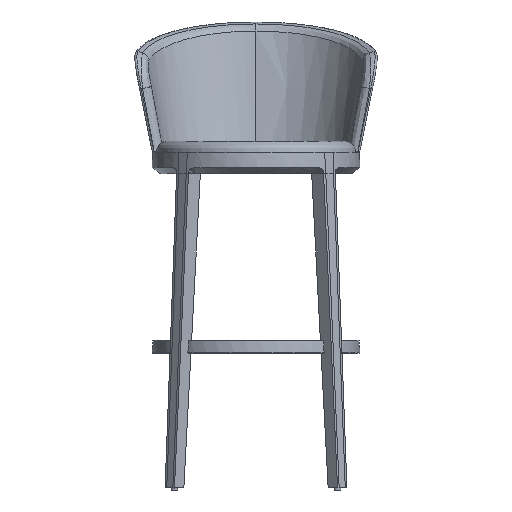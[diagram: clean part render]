
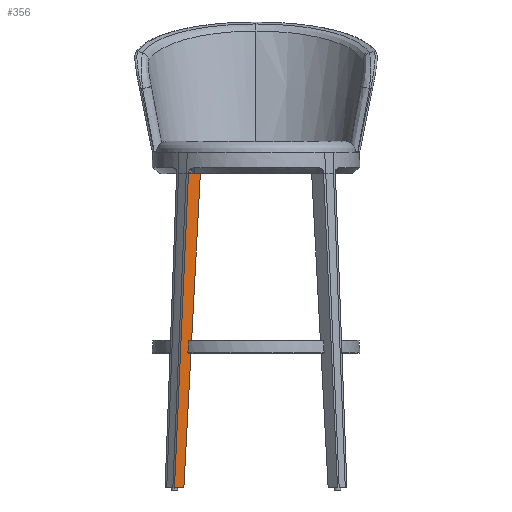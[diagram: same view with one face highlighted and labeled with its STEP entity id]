
A CAD part, front view. The second image highlights one B-rep face of the part: STEP entity #356.
In plain terms, the highlighted free-form (B-spline) face has degree [3, 3] with [4, 4] control points.
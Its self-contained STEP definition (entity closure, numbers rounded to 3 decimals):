
#356=ADVANCED_FACE('',(#583),#3591,.T.);
#583=FACE_OUTER_BOUND('',#810,.T.);
#810=EDGE_LOOP('',(#1613,#1614,#1615,#1616,#1617,#1618,#1619,#1620,#1621,
#1622));
#1613=ORIENTED_EDGE('',*,*,#2384,.F.);
#1614=ORIENTED_EDGE('',*,*,#2376,.T.);
#1615=ORIENTED_EDGE('',*,*,#2358,.F.);
#1616=ORIENTED_EDGE('',*,*,#2357,.F.);
#1617=ORIENTED_EDGE('',*,*,#2360,.F.);
#1618=ORIENTED_EDGE('',*,*,#2359,.F.);
#1619=ORIENTED_EDGE('',*,*,#2372,.F.);
#1620=ORIENTED_EDGE('',*,*,#2368,.T.);
#1621=ORIENTED_EDGE('',*,*,#2382,.F.);
#1622=ORIENTED_EDGE('',*,*,#2375,.T.);
#2357=EDGE_CURVE('',#3332,#3341,#2991,.T.);
#2358=EDGE_CURVE('',#3341,#3356,#2992,.T.);
#2359=EDGE_CURVE('',#3342,#3331,#2993,.T.);
#2360=EDGE_CURVE('',#3331,#3332,#2994,.T.);
#2368=EDGE_CURVE('',#3355,#3363,#3002,.T.);
#2372=EDGE_CURVE('',#3355,#3342,#3006,.T.);
#2375=EDGE_CURVE('',#3362,#3361,#3009,.T.);
#2376=EDGE_CURVE('',#3364,#3356,#3010,.T.);
#2382=EDGE_CURVE('',#3362,#3363,#3012,.T.);
#2384=EDGE_CURVE('',#3364,#3361,#3014,.T.);
#2991=B_SPLINE_CURVE_WITH_KNOTS('',3,(#12524,#12525,#12526,#12527),
 .UNSPECIFIED.,.F.,.F.,(4,4),(0.,39.1),.UNSPECIFIED.);
#2992=B_SPLINE_CURVE_WITH_KNOTS('',3,(#12528,#12529,#12530,#12531),
 .UNSPECIFIED.,.F.,.F.,(4,4),(0.,378.034),.UNSPECIFIED.);
#2993=B_SPLINE_CURVE_WITH_KNOTS('',3,(#12532,#12533,#12534,#12535),
 .UNSPECIFIED.,.F.,.F.,(4,4),(-39.1,0.),.UNSPECIFIED.);
#2994=B_SPLINE_CURVE_WITH_KNOTS('',3,(#12536,#12537,#12538,#12539),
 .UNSPECIFIED.,.F.,.F.,(4,4),(-713.009,0.),.UNSPECIFIED.);
#3002=B_SPLINE_CURVE_WITH_KNOTS('',3,(#12623,#12624,#12625,#12626),
 .UNSPECIFIED.,.F.,.F.,(4,4),(0.,8.927),.UNSPECIFIED.);
#3006=B_SPLINE_CURVE_WITH_KNOTS('',3,(#12639,#12640,#12641,#12642),
 .UNSPECIFIED.,.F.,.F.,(4,4),(407.163,713.009),
 .UNSPECIFIED.);
#3009=B_SPLINE_CURVE_WITH_KNOTS('',3,(#12660,#12661,#12662,#12663),
 .UNSPECIFIED.,.F.,.F.,(4,4),(1.07,29.136),
 .UNSPECIFIED.);
#3010=B_SPLINE_CURVE_WITH_KNOTS('',3,(#12664,#12665,#12666,#12667),
 .UNSPECIFIED.,.F.,.F.,(4,4),(0.937,10.),
 .UNSPECIFIED.);
#3012=B_SPLINE_CURVE_WITH_KNOTS('',3,(#12700,#12701,#12702,#12703,#12704,
#12705,#12706,#12707,#12708,#12709,#12710,#12711,#12712,#12713,#12714,#12715,
#12716,#12717,#12718,#12719),.UNSPECIFIED.,.F.,.F.,(4,1,1,1,1,1,1,1,1,1,
1,1,1,1,1,1,1,4),(-1.64,-1.552,-1.462,
-1.368,-1.273,-1.175,-1.075,
-0.974,-0.872,-0.77,-0.668,
-0.566,-0.466,-0.368,-0.272,
-0.179,-0.088,0.),
 .UNSPECIFIED.);
#3014=B_SPLINE_CURVE_WITH_KNOTS('',3,(#12740,#12741,#12742,#12743,#12744,
#12745,#12746,#12747,#12748,#12749,#12750,#12751,#12752,#12753,#12754,#12755,
#12756,#12757,#12758,#12759),.UNSPECIFIED.,.F.,.F.,(4,1,1,1,1,1,1,1,1,1,
1,1,1,1,1,1,1,4),(-1.505,-1.423,-1.339,
-1.253,-1.164,-1.075,-0.983,
-0.891,-0.798,-0.705,-0.613,
-0.521,-0.429,-0.34,-0.252,
-0.166,-0.082,0.),.UNSPECIFIED.);
#3331=VERTEX_POINT('',#12248);
#3332=VERTEX_POINT('',#12249);
#3341=VERTEX_POINT('',#12258);
#3342=VERTEX_POINT('',#12259);
#3355=VERTEX_POINT('',#12272);
#3356=VERTEX_POINT('',#12273);
#3361=VERTEX_POINT('',#12278);
#3362=VERTEX_POINT('',#12279);
#3363=VERTEX_POINT('',#12280);
#3364=VERTEX_POINT('',#12281);
#3591=B_SPLINE_SURFACE_WITH_KNOTS('',3,3,((#12136,#12137,#12138,#12139),
(#12140,#12141,#12142,#12143),(#12144,#12145,#12146,#12147),(#12148,#12149,
#12150,#12151)),.UNSPECIFIED.,.F.,.F.,.F.,(4,4),(4,4),(0.,713.009),
(0.,39.1),.UNSPECIFIED.);
#12136=CARTESIAN_POINT('',(-157.891,-185.608,739.349));
#12137=CARTESIAN_POINT('',(-148.637,-176.431,739.349));
#12138=CARTESIAN_POINT('',(-139.382,-167.254,739.349));
#12139=CARTESIAN_POINT('',(-130.127,-158.077,739.349));
#12140=CARTESIAN_POINT('',(-168.78,-194.568,494.566));
#12141=CARTESIAN_POINT('',(-160.174,-186.014,494.566));
#12142=CARTESIAN_POINT('',(-151.569,-177.46,494.566));
#12143=CARTESIAN_POINT('',(-142.963,-168.907,494.566));
#12144=CARTESIAN_POINT('',(-179.668,-203.527,249.783));
#12145=CARTESIAN_POINT('',(-171.712,-195.597,249.783));
#12146=CARTESIAN_POINT('',(-163.755,-187.667,249.783));
#12147=CARTESIAN_POINT('',(-155.799,-179.737,249.783));
#12148=CARTESIAN_POINT('',(-190.556,-212.487,5.));
#12149=CARTESIAN_POINT('',(-183.249,-205.18,5.));
#12150=CARTESIAN_POINT('',(-175.942,-197.873,5.));
#12151=CARTESIAN_POINT('',(-168.636,-190.566,5.));
#12248=CARTESIAN_POINT('',(-190.556,-212.487,5.));
#12249=CARTESIAN_POINT('',(-157.891,-185.608,739.349));
#12258=CARTESIAN_POINT('',(-130.127,-158.077,739.349));
#12259=CARTESIAN_POINT('',(-168.636,-190.566,5.));
#12272=CARTESIAN_POINT('',(-152.117,-176.63,320.));
#12273=CARTESIAN_POINT('',(-150.544,-175.303,350.));
#12278=CARTESIAN_POINT('',(-157.68,-182.399,349.068));
#12279=CARTESIAN_POINT('',(-159.147,-183.639,321.068));
#12280=CARTESIAN_POINT('',(-158.443,-182.929,320.));
#12281=CARTESIAN_POINT('',(-156.967,-181.697,350.));
#12524=CARTESIAN_POINT('',(-157.891,-185.608,739.349));
#12525=CARTESIAN_POINT('',(-148.637,-176.431,739.349));
#12526=CARTESIAN_POINT('',(-139.382,-167.254,739.349));
#12527=CARTESIAN_POINT('',(-130.127,-158.077,739.349));
#12528=CARTESIAN_POINT('',(-130.127,-158.077,739.349));
#12529=CARTESIAN_POINT('',(-136.933,-163.819,609.566));
#12530=CARTESIAN_POINT('',(-143.738,-169.561,479.783));
#12531=CARTESIAN_POINT('',(-150.544,-175.303,350.));
#12532=CARTESIAN_POINT('',(-168.636,-190.566,5.));
#12533=CARTESIAN_POINT('',(-175.942,-197.873,5.));
#12534=CARTESIAN_POINT('',(-183.249,-205.18,5.));
#12535=CARTESIAN_POINT('',(-190.556,-212.487,5.));
#12536=CARTESIAN_POINT('',(-190.556,-212.487,5.));
#12537=CARTESIAN_POINT('',(-179.668,-203.527,249.783));
#12538=CARTESIAN_POINT('',(-168.78,-194.568,494.566));
#12539=CARTESIAN_POINT('',(-157.891,-185.608,739.349));
#12623=CARTESIAN_POINT('',(-152.117,-176.63,320.));
#12624=CARTESIAN_POINT('',(-154.226,-178.73,320.));
#12625=CARTESIAN_POINT('',(-156.334,-180.83,320.));
#12626=CARTESIAN_POINT('',(-158.443,-182.929,320.));
#12639=CARTESIAN_POINT('',(-152.117,-176.63,320.));
#12640=CARTESIAN_POINT('',(-157.623,-181.275,215.));
#12641=CARTESIAN_POINT('',(-163.129,-185.921,110.));
#12642=CARTESIAN_POINT('',(-168.636,-190.566,5.));
#12660=CARTESIAN_POINT('',(-159.147,-183.639,321.068));
#12661=CARTESIAN_POINT('',(-158.658,-183.226,330.401));
#12662=CARTESIAN_POINT('',(-158.169,-182.813,339.734));
#12663=CARTESIAN_POINT('',(-157.68,-182.399,349.068));
#12664=CARTESIAN_POINT('',(-156.967,-181.697,350.));
#12665=CARTESIAN_POINT('',(-154.826,-179.565,350.));
#12666=CARTESIAN_POINT('',(-152.685,-177.434,350.));
#12667=CARTESIAN_POINT('',(-150.544,-175.303,350.));
#12700=CARTESIAN_POINT('',(-159.147,-183.639,321.068));
#12701=CARTESIAN_POINT('',(-159.148,-183.641,321.039));
#12702=CARTESIAN_POINT('',(-159.15,-183.641,320.979));
#12703=CARTESIAN_POINT('',(-159.146,-183.637,320.889));
#12704=CARTESIAN_POINT('',(-159.136,-183.626,320.796));
#12705=CARTESIAN_POINT('',(-159.119,-183.609,320.704));
#12706=CARTESIAN_POINT('',(-159.096,-183.585,320.611));
#12707=CARTESIAN_POINT('',(-159.066,-183.554,320.522));
#12708=CARTESIAN_POINT('',(-159.029,-183.516,320.435));
#12709=CARTESIAN_POINT('',(-158.985,-183.473,320.354));
#12710=CARTESIAN_POINT('',(-158.936,-183.423,320.28));
#12711=CARTESIAN_POINT('',(-158.882,-183.368,320.213));
#12712=CARTESIAN_POINT('',(-158.823,-183.31,320.154));
#12713=CARTESIAN_POINT('',(-158.762,-183.248,320.105));
#12714=CARTESIAN_POINT('',(-158.698,-183.185,320.066));
#12715=CARTESIAN_POINT('',(-158.634,-183.12,320.035));
#12716=CARTESIAN_POINT('',(-158.569,-183.056,320.015));
#12717=CARTESIAN_POINT('',(-158.505,-182.992,320.003));
#12718=CARTESIAN_POINT('',(-158.463,-182.95,320.));
#12719=CARTESIAN_POINT('',(-158.443,-182.929,320.));
#12740=CARTESIAN_POINT('',(-156.967,-181.697,350.));
#12741=CARTESIAN_POINT('',(-156.986,-181.716,350.));
#12742=CARTESIAN_POINT('',(-157.025,-181.755,349.998));
#12743=CARTESIAN_POINT('',(-157.085,-181.814,349.987));
#12744=CARTESIAN_POINT('',(-157.145,-181.874,349.97));
#12745=CARTESIAN_POINT('',(-157.205,-181.933,349.944));
#12746=CARTESIAN_POINT('',(-157.264,-181.992,349.91));
#12747=CARTESIAN_POINT('',(-157.321,-182.049,349.869));
#12748=CARTESIAN_POINT('',(-157.377,-182.104,349.819));
#12749=CARTESIAN_POINT('',(-157.429,-182.155,349.763));
#12750=CARTESIAN_POINT('',(-157.478,-182.203,349.699));
#12751=CARTESIAN_POINT('',(-157.522,-182.246,349.63));
#12752=CARTESIAN_POINT('',(-157.561,-182.285,349.556));
#12753=CARTESIAN_POINT('',(-157.594,-182.318,349.478));
#12754=CARTESIAN_POINT('',(-157.623,-182.345,349.397));
#12755=CARTESIAN_POINT('',(-157.645,-182.367,349.315));
#12756=CARTESIAN_POINT('',(-157.662,-182.383,349.232));
#12757=CARTESIAN_POINT('',(-157.674,-182.394,349.15));
#12758=CARTESIAN_POINT('',(-157.678,-182.398,349.095));
#12759=CARTESIAN_POINT('',(-157.68,-182.399,349.068));
